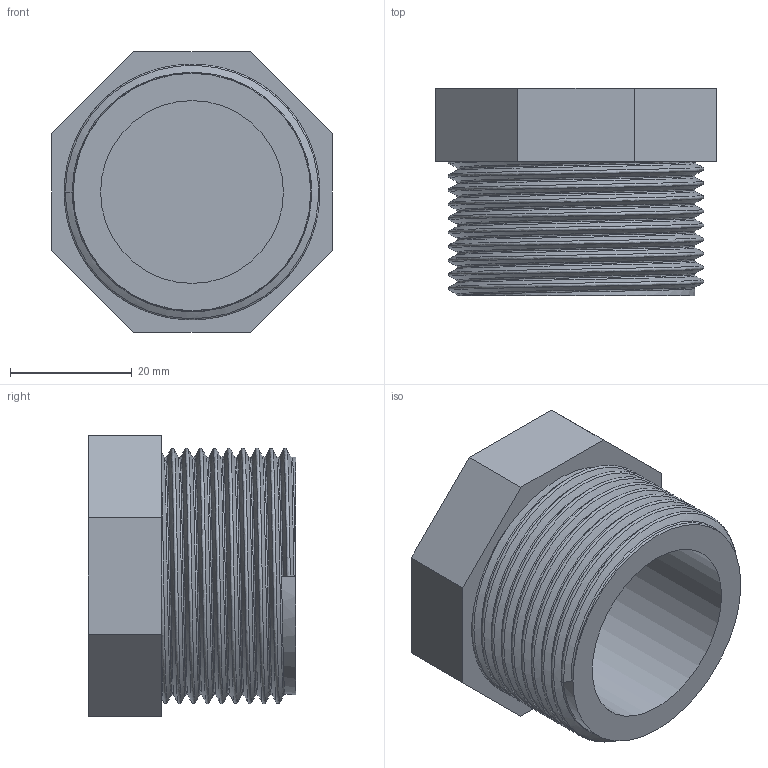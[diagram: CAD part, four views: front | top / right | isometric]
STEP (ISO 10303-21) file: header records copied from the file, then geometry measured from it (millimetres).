
FILE_DESCRIPTION(/* description */ ('PVC tappo filettato BSP maschio'),/* implementation_level */ '2;1');
FILE_NAME(/* name */ 'C:\Users\POLYPIPE\Desktop\DATASET INVENTOR\LIBRERIA EFFAST\RACCORDI 3DxWEB\RER\3D_RERTAE\3D_RERTAE040E.stp',/* time_stamp */ '2018-01-19T17:18:07+01:00',/* author */ ('POLYPIPE'),/* organization */ ('Polypipe Italia s.r.l.'),/* preprocessor_version */ 'ST-DEVELOPER v16.1',/* originating_system */ 'Autodesk Inventor 2016',/* authorisation */ '');
FILE_SCHEMA (('CONFIG_CONTROL_DESIGN'));
Length unit declared in the file: millimetre
Products named in the file (1): 3D_RERTAE
Bounding box: 46 x 34 x 46 mm (x, y, z)
Volume: 33648.1 mm3; surface area: 11989.6 mm2
Topology: 1 solids, 1 shells, 20 faces, 45 edges, 29 vertices
Faces by surface type: plane 13, bspline 5, cylinder 2
Full cylindrical faces by diameter (mm): 30 x1, 38.952 x1
Entity records: 4228 total; most frequent: CARTESIAN_POINT 3789, ORIENTED_EDGE 88, DIRECTION 71, EDGE_CURVE 44, VERTEX_POINT 29, LINE 27, VECTOR 27, EDGE_LOOP 23
